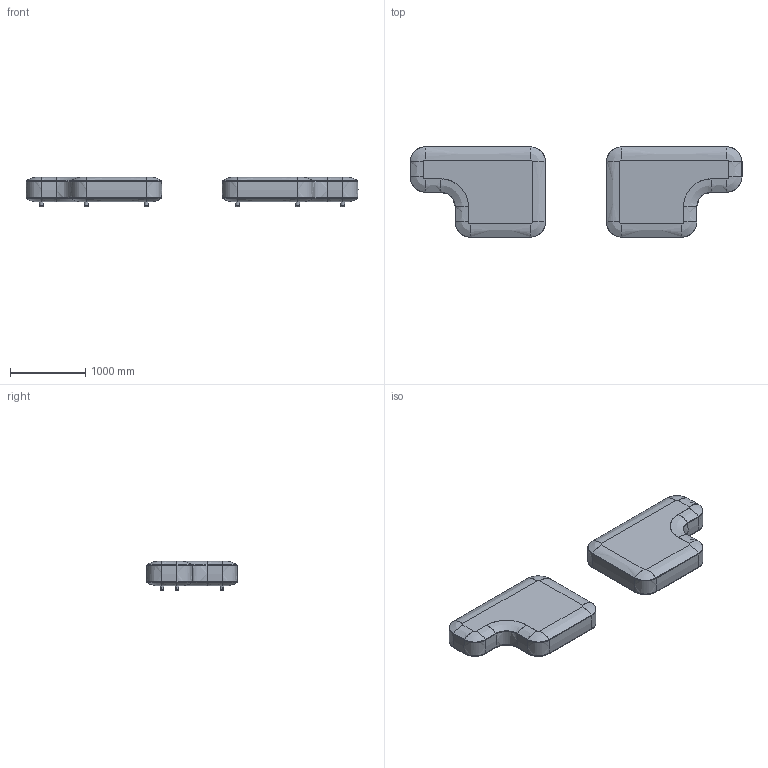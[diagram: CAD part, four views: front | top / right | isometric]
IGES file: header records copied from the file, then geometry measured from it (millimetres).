
Start section: SolidWorks IGES file using analytic representation for surfaces
Global section: file name: C:\Users\Usuario\Dropbox\Viccarbe\ARCHIVOS ENVIAR SILVIA\3D\Common\2- CO180F (180X120)\CO180F.IGS; native system: SolidWorks 2013; preprocessor: SolidWorks 2013; author: Usuario; date: 130514.123449; units: millimetre
Bounding box: 4426 x 1210 x 395 mm (x, y, z)
Surface area: 24032792.2 mm2 (no closed solid volume)
Topology: 0 solids, 0 shells, 336 faces, 3603 edges, 3603 vertices
Faces by surface type: bspline 268, revolution 68
